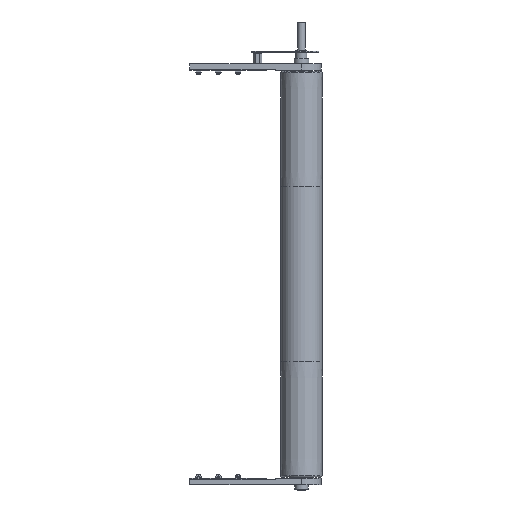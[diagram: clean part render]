
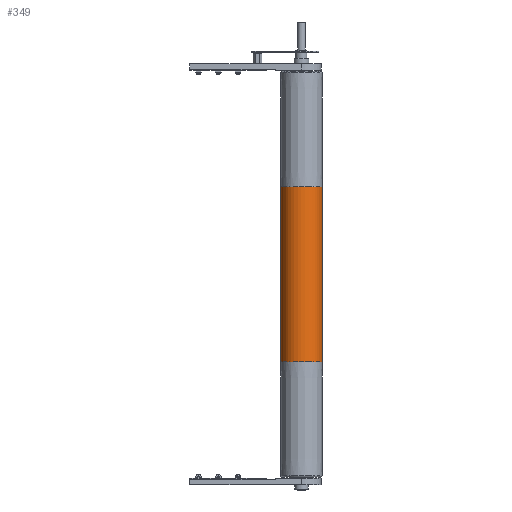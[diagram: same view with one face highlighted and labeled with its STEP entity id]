
A CAD part, front view. The second image highlights one B-rep face of the part: STEP entity #349.
In plain terms, the highlighted cylindrical face has radius 47.5 mm (diameter 95 mm), a partial arc.
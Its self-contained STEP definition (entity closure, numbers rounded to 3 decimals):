
#349 = ADVANCED_FACE ( 'NONE', ( #6764 ), #6754, .T. ) ;
#1709 = VERTEX_POINT ( 'NONE', #11543 ) ;
#1891 = VERTEX_POINT ( 'NONE', #11381 ) ;
#1991 = VERTEX_POINT ( 'NONE', #10504 ) ;
#2042 = VERTEX_POINT ( 'NONE', #10340 ) ;
#3610 = CIRCLE ( 'NONE', #4309, 47.5 ) ;
#3611 = CIRCLE ( 'NONE', #4317, 47.5 ) ;
#3617 = VECTOR ( 'NONE', #8964, 1000. ) ;
#3619 = LINE ( 'NONE', #8960, #3617 ) ;
#3620 = VECTOR ( 'NONE', #8963, 1000. ) ;
#3627 = LINE ( 'NONE', #8970, #3620 ) ;
#4309 = AXIS2_PLACEMENT_3D ( 'NONE', #8936, #8934, #8933 ) ;
#4317 = AXIS2_PLACEMENT_3D ( 'NONE', #8941, #8940, #8939 ) ;
#6754 = CYLINDRICAL_SURFACE ( 'NONE', #17029, 47.5 ) ;
#6764 = FACE_OUTER_BOUND ( 'NONE', #16083, .T. ) ;
#8544 = EDGE_CURVE ( 'NONE', #2042, #1891, #3627, .T. ) ;
#8546 = EDGE_CURVE ( 'NONE', #1709, #1991, #3619, .T. ) ;
#8551 = EDGE_CURVE ( 'NONE', #1991, #1891, #3611, .T. ) ;
#8552 = EDGE_CURVE ( 'NONE', #1709, #2042, #3610, .T. ) ;
#8933 = DIRECTION ( 'NONE',  ( 1., 0., 0. ) ) ;
#8934 = DIRECTION ( 'NONE',  ( 0., 0., 1. ) ) ;
#8936 = CARTESIAN_POINT ( 'NONE',  ( 0., 0., 200. ) ) ;
#8939 = DIRECTION ( 'NONE',  ( 1., 0., 0. ) ) ;
#8940 = DIRECTION ( 'NONE',  ( 0., 0., 1. ) ) ;
#8941 = CARTESIAN_POINT ( 'NONE',  ( 0., 0., -200. ) ) ;
#8960 = CARTESIAN_POINT ( 'NONE',  ( -47.5, 0., 460. ) ) ;
#8963 = DIRECTION ( 'NONE',  ( 0., 0., -1. ) ) ;
#8964 = DIRECTION ( 'NONE',  ( 0., 0., -1. ) ) ;
#8970 = CARTESIAN_POINT ( 'NONE',  ( 47.5, 0., 460. ) ) ;
#10340 = CARTESIAN_POINT ( 'NONE',  ( 47.5, 0., 200. ) ) ;
#10504 = CARTESIAN_POINT ( 'NONE',  ( -47.5, 0., -200. ) ) ;
#11381 = CARTESIAN_POINT ( 'NONE',  ( 47.5, 0., -200. ) ) ;
#11543 = CARTESIAN_POINT ( 'NONE',  ( -47.5, 0., 200. ) ) ;
#12076 = CARTESIAN_POINT ( 'NONE',  ( 0., 0., 460. ) ) ;
#12078 = DIRECTION ( 'NONE',  ( 0., 0., -1. ) ) ;
#12080 = DIRECTION ( 'NONE',  ( -1., 0., 0. ) ) ;
#16083 = EDGE_LOOP ( 'NONE', ( #17935, #17936, #17937, #17939 ) ) ;
#17029 = AXIS2_PLACEMENT_3D ( 'NONE', #12076, #12078, #12080 ) ;
#17935 = ORIENTED_EDGE ( 'NONE', *, *, #8544, .F. ) ;
#17936 = ORIENTED_EDGE ( 'NONE', *, *, #8552, .F. ) ;
#17937 = ORIENTED_EDGE ( 'NONE', *, *, #8546, .T. ) ;
#17939 = ORIENTED_EDGE ( 'NONE', *, *, #8551, .T. ) ;
